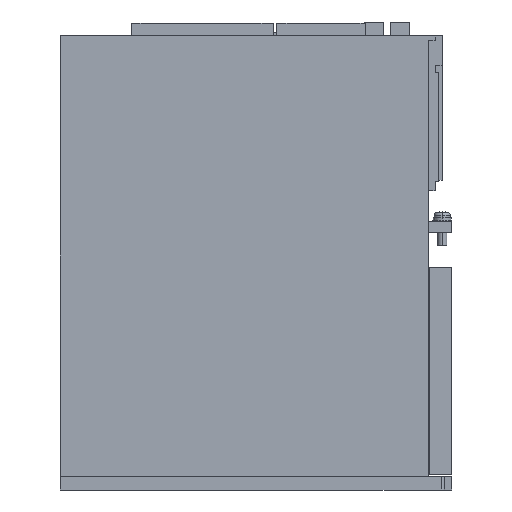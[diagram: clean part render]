
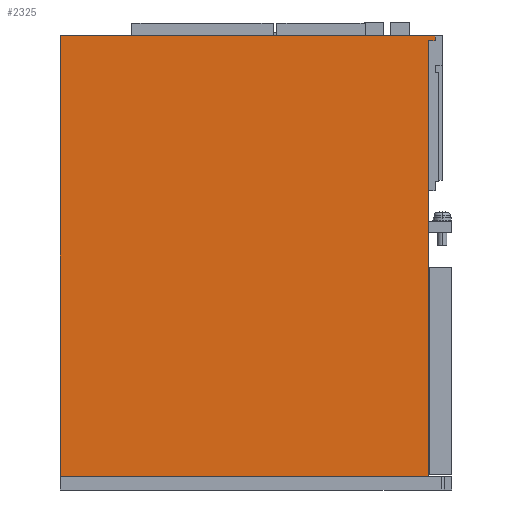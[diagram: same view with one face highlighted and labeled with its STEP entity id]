
A CAD part, left-side view. The second image highlights one B-rep face of the part: STEP entity #2325.
In plain terms, the highlighted planar face has unit normal (-1, 0, 0).
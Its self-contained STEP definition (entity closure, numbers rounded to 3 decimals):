
#956=DIRECTION('',(0.,-1.,0.));
#957=VECTOR('',#956,158.);
#958=CARTESIAN_POINT('',(-42.5,84.,0.));
#959=LINE('',#958,#957);
#1004=DIRECTION('',(0.,0.,1.));
#1005=VECTOR('',#1004,187.);
#1006=CARTESIAN_POINT('',(-42.5,-74.,0.));
#1007=LINE('',#1006,#1005);
#1008=DIRECTION('',(0.,0.,1.));
#1009=VECTOR('',#1008,189.);
#1010=CARTESIAN_POINT('',(-42.5,84.,0.));
#1011=LINE('',#1010,#1009);
#1048=DIRECTION('',(0.,1.,0.));
#1049=VECTOR('',#1048,161.);
#1050=CARTESIAN_POINT('',(-42.5,-77.,189.));
#1051=LINE('',#1050,#1049);
#1456=DIRECTION('',(0.,0.,-1.));
#1457=VECTOR('',#1456,2.);
#1458=CARTESIAN_POINT('',(-42.5,-77.,189.));
#1459=LINE('',#1458,#1457);
#1572=DIRECTION('',(0.,-1.,0.));
#1573=VECTOR('',#1572,3.);
#1574=CARTESIAN_POINT('',(-42.5,-74.,187.));
#1575=LINE('',#1574,#1573);
#1884=CARTESIAN_POINT('',(-42.5,84.,0.));
#1885=CARTESIAN_POINT('',(-42.5,84.,189.));
#1886=VERTEX_POINT('',#1884);
#1887=VERTEX_POINT('',#1885);
#1888=CARTESIAN_POINT('',(-42.5,-74.,0.));
#1889=VERTEX_POINT('',#1888);
#1966=CARTESIAN_POINT('',(-42.5,-77.,189.));
#1967=CARTESIAN_POINT('',(-42.5,-77.,187.));
#1968=VERTEX_POINT('',#1966);
#1969=VERTEX_POINT('',#1967);
#1978=CARTESIAN_POINT('',(-42.5,-74.,187.));
#1980=VERTEX_POINT('',#1978);
#2308=CARTESIAN_POINT('',(-42.5,84.,0.));
#2309=DIRECTION('',(-1.,0.,0.));
#2310=DIRECTION('',(0.,-1.,0.));
#2311=AXIS2_PLACEMENT_3D('',#2308,#2309,#2310);
#2312=PLANE('',#2311);
#2314=ORIENTED_EDGE('',*,*,#2313,.F.);
#2316=ORIENTED_EDGE('',*,*,#2315,.T.);
#2318=ORIENTED_EDGE('',*,*,#2317,.F.);
#2319=ORIENTED_EDGE('',*,*,#2282,.F.);
#2320=ORIENTED_EDGE('',*,*,#2253,.F.);
#2322=ORIENTED_EDGE('',*,*,#2321,.T.);
#2323=EDGE_LOOP('',(#2314,#2316,#2318,#2319,#2320,#2322));
#2324=FACE_OUTER_BOUND('',#2323,.F.);
#2325=ADVANCED_FACE('',(#2324),#2312,.T.);
#2253=EDGE_CURVE('',#1886,#1889,#959,.T.);
#2282=EDGE_CURVE('',#1889,#1980,#1007,.T.);
#2313=EDGE_CURVE('',#1968,#1887,#1051,.T.);
#2315=EDGE_CURVE('',#1968,#1969,#1459,.T.);
#2317=EDGE_CURVE('',#1980,#1969,#1575,.T.);
#2321=EDGE_CURVE('',#1886,#1887,#1011,.T.);
